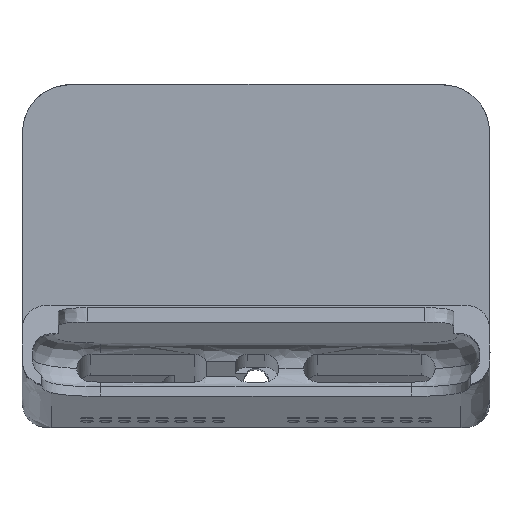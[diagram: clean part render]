
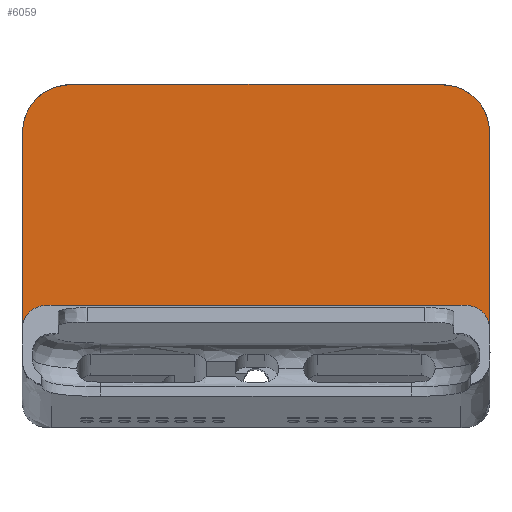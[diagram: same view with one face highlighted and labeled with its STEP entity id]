
A CAD part, top view. The second image highlights one B-rep face of the part: STEP entity #6059.
In plain terms, the highlighted planar face has unit normal (0, 0, 1).
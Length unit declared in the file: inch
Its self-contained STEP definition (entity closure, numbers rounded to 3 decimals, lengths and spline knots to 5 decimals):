
#31=CARTESIAN_POINT('',(-1.619,-5.25911,-1.10235));
#196=DIRECTION('',(0.,-1.,0.));
#197=VECTOR('',#196,1.42957);
#198=CARTESIAN_POINT('',(1.619,-3.82954,-1.10235));
#199=LINE('',#198,#197);
#200=CARTESIAN_POINT('',(1.419,-5.11973,-1.10235));
#201=CARTESIAN_POINT('',(1.42366,-5.11973,-1.10235));
#202=CARTESIAN_POINT('',(1.43259,-5.11974,-1.10235));
#203=CARTESIAN_POINT('',(1.44479,-5.11999,-1.10235));
#204=CARTESIAN_POINT('',(1.45584,-5.12058,-1.10235));
#205=CARTESIAN_POINT('',(1.46586,-5.12149,-1.10235));
#206=CARTESIAN_POINT('',(1.47495,-5.12266,-1.10235));
#207=CARTESIAN_POINT('',(1.48323,-5.12406,-1.10235));
#208=CARTESIAN_POINT('',(1.48834,-5.12513,-1.10235));
#209=CARTESIAN_POINT('',(1.49077,-5.12569,-1.10235));
#211=DIRECTION('',(1.,0.,0.));
#212=VECTOR('',#211,2.838);
#213=CARTESIAN_POINT('',(-1.419,-5.11973,
-1.10235));
#214=LINE('',#213,#212);
#215=CARTESIAN_POINT('',(-1.49077,-5.12569,
-1.10235));
#216=CARTESIAN_POINT('',(-1.484,-5.12413,
-1.10235));
#217=CARTESIAN_POINT('',(-1.47092,-5.12191,
-1.10235));
#218=CARTESIAN_POINT('',(-1.45332,-5.12031,
-1.10235));
#219=CARTESIAN_POINT('',(-1.43668,-5.11974,
-1.10235));
#220=CARTESIAN_POINT('',(-1.42493,-5.11973,
-1.10235));
#221=CARTESIAN_POINT('',(-1.419,-5.11973,
-1.10235));
#223=DIRECTION('',(0.,1.,0.));
#224=VECTOR('',#223,1.42957);
#225=CARTESIAN_POINT('',(-1.619,-5.25911,-1.10235));
#226=LINE('',#225,#224);
#227=CARTESIAN_POINT('',(-1.219,-3.42954,-1.10235));
#228=CARTESIAN_POINT('',(-1.24101,-3.42954,
-1.10235));
#229=CARTESIAN_POINT('',(-1.28609,-3.42951,
-1.10235));
#230=CARTESIAN_POINT('',(-1.36058,-3.43843,
-1.10235));
#231=CARTESIAN_POINT('',(-1.4316,-3.46249,
-1.10235));
#232=CARTESIAN_POINT('',(-1.49518,-3.50128,
-1.10235));
#233=CARTESIAN_POINT('',(-1.54719,-3.55329,
-1.10235));
#234=CARTESIAN_POINT('',(-1.58599,-3.61678,
-1.10235));
#235=CARTESIAN_POINT('',(-1.61014,-3.68805,
-1.10235));
#236=CARTESIAN_POINT('',(-1.61902,-3.76249,
-1.10235));
#237=CARTESIAN_POINT('',(-1.619,-3.80755,-1.10235));
#238=CARTESIAN_POINT('',(-1.619,-3.82954,-1.10235));
#240=DIRECTION('',(1.,0.,0.));
#241=VECTOR('',#240,2.438);
#242=CARTESIAN_POINT('',(-1.219,-3.42954,-1.10235));
#243=LINE('',#242,#241);
#244=CARTESIAN_POINT('',(1.619,-3.82954,-1.10235));
#245=CARTESIAN_POINT('',(1.619,-3.808,-1.10235));
#246=CARTESIAN_POINT('',(1.61899,-3.76412,-1.10235));
#247=CARTESIAN_POINT('',(1.61095,-3.69328,-1.10235));
#248=CARTESIAN_POINT('',(1.58943,-3.62471,-1.10235));
#249=CARTESIAN_POINT('',(1.55318,-3.56165,-1.10235));
#250=CARTESIAN_POINT('',(1.50701,-3.51175,-1.10235));
#251=CARTESIAN_POINT('',(1.4545,-3.47533,-1.10235));
#252=CARTESIAN_POINT('',(1.40134,-3.45134,-1.10235));
#253=CARTESIAN_POINT('',(1.34986,-3.43768,-1.10235));
#254=CARTESIAN_POINT('',(1.3016,-3.43139,-1.10235));
#255=CARTESIAN_POINT('',(1.25761,-3.42952,-1.10235));
#256=CARTESIAN_POINT('',(1.23137,-3.42954,-1.10235));
#257=CARTESIAN_POINT('',(1.219,-3.42954,-1.10235));
#263=CARTESIAN_POINT('',(1.619,-5.25911,-1.10235));
#331=CARTESIAN_POINT('',(1.49077,-5.12569,-1.10235));
#332=CARTESIAN_POINT('',(1.49422,-5.12649,-1.10235));
#333=CARTESIAN_POINT('',(1.50106,-5.12827,-1.10235));
#334=CARTESIAN_POINT('',(1.51083,-5.13144,-1.10235));
#335=CARTESIAN_POINT('',(1.521,-5.13544,-1.10235));
#336=CARTESIAN_POINT('',(1.53119,-5.14022,-1.10235));
#337=CARTESIAN_POINT('',(1.54133,-5.14582,-1.10235));
#338=CARTESIAN_POINT('',(1.55121,-5.15222,-1.10235));
#339=CARTESIAN_POINT('',(1.5606,-5.1593,-1.10235));
#340=CARTESIAN_POINT('',(1.56928,-5.16689,-1.10235));
#341=CARTESIAN_POINT('',(1.5773,-5.17501,-1.10235));
#342=CARTESIAN_POINT('',(1.58496,-5.18399,-1.10235));
#343=CARTESIAN_POINT('',(1.59259,-5.19443,-1.10235));
#344=CARTESIAN_POINT('',(1.60026,-5.20693,-1.10235));
#345=CARTESIAN_POINT('',(1.60765,-5.2218,-1.10235));
#346=CARTESIAN_POINT('',(1.61429,-5.23934,-1.10235));
#347=CARTESIAN_POINT('',(1.61762,-5.25227,-1.10235));
#348=CARTESIAN_POINT('',(1.619,-5.25911,-1.10235));
#4838=CARTESIAN_POINT('',(-1.619,-5.25911,-1.10235));
#4839=CARTESIAN_POINT('',(-1.61832,-5.25575,
-1.10235));
#4840=CARTESIAN_POINT('',(-1.61679,-5.24902,
-1.10235));
#4841=CARTESIAN_POINT('',(-1.61393,-5.23905,
-1.10235));
#4842=CARTESIAN_POINT('',(-1.61035,-5.22884,
-1.10235));
#4843=CARTESIAN_POINT('',(-1.60594,-5.21839,
-1.10235));
#4844=CARTESIAN_POINT('',(-1.60057,-5.20768,
-1.10235));
#4845=CARTESIAN_POINT('',(-1.59415,-5.19684,
-1.10235));
#4846=CARTESIAN_POINT('',(-1.58671,-5.18622,
-1.10235));
#4847=CARTESIAN_POINT('',(-1.57843,-5.1762,
-1.10235));
#4848=CARTESIAN_POINT('',(-1.5693,-5.16684,
-1.10235));
#4849=CARTESIAN_POINT('',(-1.55886,-5.15781,
-1.10235));
#4850=CARTESIAN_POINT('',(-1.54633,-5.14878,
-1.10235));
#4851=CARTESIAN_POINT('',(-1.53094,-5.13984,
-1.10235));
#4852=CARTESIAN_POINT('',(-1.5126,-5.13174,
-1.10235));
#4853=CARTESIAN_POINT('',(-1.4984,-5.12745,
-1.10235));
#4854=CARTESIAN_POINT('',(-1.49077,-5.12569,
-1.10235));
#4890=VERTEX_POINT('',#227);
#4891=VERTEX_POINT('',#238);
#4892=VERTEX_POINT('',#244);
#4893=VERTEX_POINT('',#257);
#5746=CARTESIAN_POINT('',(-1.419,-5.11973,
-1.10235));
#5747=CARTESIAN_POINT('',(1.419,-5.11973,
-1.10235));
#5748=VERTEX_POINT('',#5746);
#5749=VERTEX_POINT('',#5747);
#5754=VERTEX_POINT('',#209);
#5755=VERTEX_POINT('',#215);
#5756=VERTEX_POINT('',#31);
#5757=VERTEX_POINT('',#263);
#6035=CARTESIAN_POINT('',(-1.619,-3.42954,-1.10235));
#6036=DIRECTION('',(0.,0.,1.));
#6037=DIRECTION('',(0.,-1.,0.));
#6038=AXIS2_PLACEMENT_3D('',#6035,#6036,#6037);
#6039=PLANE('',#6038);
#6041=ORIENTED_EDGE('',*,*,#6040,.T.);
#6043=ORIENTED_EDGE('',*,*,#6042,.F.);
#6045=ORIENTED_EDGE('',*,*,#6044,.F.);
#6046=ORIENTED_EDGE('',*,*,#5986,.F.);
#6047=ORIENTED_EDGE('',*,*,#6026,.F.);
#6049=ORIENTED_EDGE('',*,*,#6048,.F.);
#6050=ORIENTED_EDGE('',*,*,#5874,.T.);
#6052=ORIENTED_EDGE('',*,*,#6051,.F.);
#6054=ORIENTED_EDGE('',*,*,#6053,.T.);
#6056=ORIENTED_EDGE('',*,*,#6055,.F.);
#6057=EDGE_LOOP('',(#6041,#6043,#6045,#6046,#6047,#6049,#6050,#6052,#6054,
#6056));
#6058=FACE_OUTER_BOUND('',#6057,.F.);
#6059=ADVANCED_FACE('',(#6058),#6039,.T.);
#210=B_SPLINE_CURVE_WITH_KNOTS('',3,(#200,#201,#202,#203,#204,#205,#206,#207,
#208,#209),.UNSPECIFIED.,.F.,.F.,(4,1,1,1,1,1,1,4),(0.,0.14286,
0.28571,0.42857,0.57143,0.71429,
0.85714,1.),.UNSPECIFIED.);
#222=B_SPLINE_CURVE_WITH_KNOTS('',3,(#215,#216,#217,#218,#219,#220,#221),
.UNSPECIFIED.,.F.,.F.,(4,1,1,1,4),(0.,0.25,0.5,0.75,1.),
.UNSPECIFIED.);
#239=B_SPLINE_CURVE_WITH_KNOTS('',3,(#227,#228,#229,#230,#231,#232,#233,#234,
#235,#236,#237,#238),.UNSPECIFIED.,.F.,.F.,(4,1,1,1,1,1,1,1,1,4),(0.,
0.11111,0.22222,0.33333,0.44444,
0.55556,0.66667,0.77778,0.88889,1.),
.UNSPECIFIED.);
#258=B_SPLINE_CURVE_WITH_KNOTS('',3,(#244,#245,#246,#247,#248,#249,#250,#251,
#252,#253,#254,#255,#256,#257),.UNSPECIFIED.,.F.,.F.,(4,1,1,1,1,1,1,1,1,1,1,4),(
0.,0.09091,0.18182,0.27273,0.36364,
0.45455,0.54545,0.63636,0.72727,
0.81818,0.90909,1.),.UNSPECIFIED.);
#349=B_SPLINE_CURVE_WITH_KNOTS('',3,(#331,#332,#333,#334,#335,#336,#337,#338,
#339,#340,#341,#342,#343,#344,#345,#346,#347,#348),.UNSPECIFIED.,.F.,.F.,(4,1,1,
1,1,1,1,1,1,1,1,1,1,1,1,4),(0.,0.06667,0.13333,0.2,
0.26667,0.33333,0.4,0.46667,0.53333,
0.6,0.66667,0.73333,0.8,0.86667,
0.93333,1.),.UNSPECIFIED.);
#4855=B_SPLINE_CURVE_WITH_KNOTS('',3,(#4838,#4839,#4840,#4841,#4842,#4843,#4844,
#4845,#4846,#4847,#4848,#4849,#4850,#4851,#4852,#4853,#4854),.UNSPECIFIED.,.F.,
.F.,(4,1,1,1,1,1,1,1,1,1,1,1,1,1,4),(0.,0.07143,0.14286,
0.21429,0.28571,0.35714,0.42857,0.5,
0.57143,0.64286,0.71429,0.78571,
0.85714,0.92857,1.),.UNSPECIFIED.);
#5874=EDGE_CURVE('',#5756,#4891,#226,.T.);
#5986=EDGE_CURVE('',#5748,#5749,#214,.T.);
#6026=EDGE_CURVE('',#5755,#5748,#222,.T.);
#6040=EDGE_CURVE('',#4892,#5757,#199,.T.);
#6042=EDGE_CURVE('',#5754,#5757,#349,.T.);
#6044=EDGE_CURVE('',#5749,#5754,#210,.T.);
#6048=EDGE_CURVE('',#5756,#5755,#4855,.T.);
#6051=EDGE_CURVE('',#4890,#4891,#239,.T.);
#6053=EDGE_CURVE('',#4890,#4893,#243,.T.);
#6055=EDGE_CURVE('',#4892,#4893,#258,.T.);
